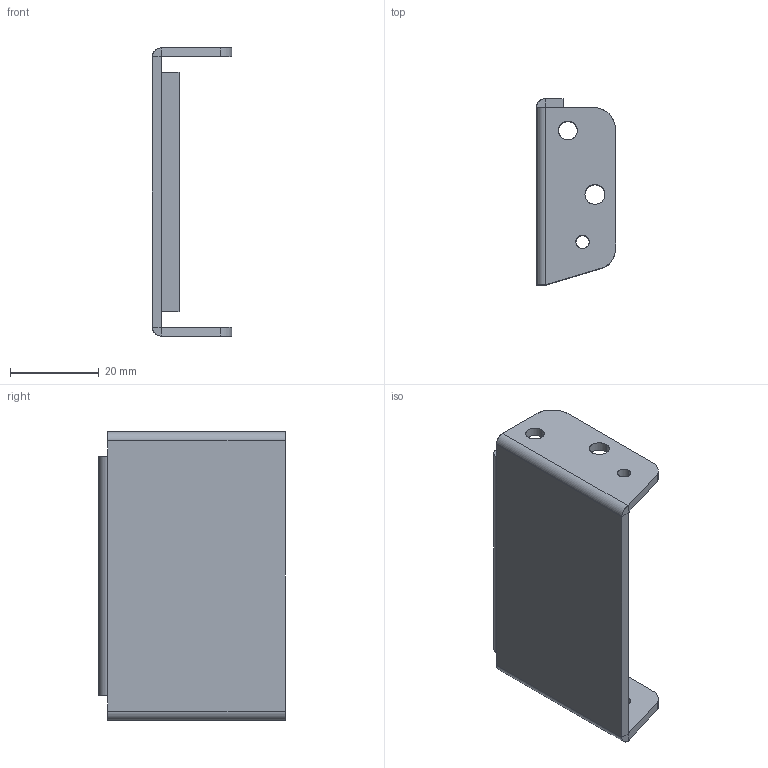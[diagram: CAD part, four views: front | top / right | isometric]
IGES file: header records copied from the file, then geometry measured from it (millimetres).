
Start section: SolidWorks IGES file using analytic representation for surfaces
Global section: file name: Z:\Mes documents\ATAO iges\Gamme GE\GE 1091\1091.010.00.IGS; native system: SolidWorks 2008; preprocessor: SolidWorks 2008; author: cbrechard; date: 110527.102504; units: millimetre
Bounding box: 17.85 x 42 x 65 mm (x, y, z)
Surface area: 8625.5 mm2 (no closed solid volume)
Topology: 0 solids, 0 shells, 45 faces, 668 edges, 668 vertices
Faces by surface type: bspline 26, revolution 19
